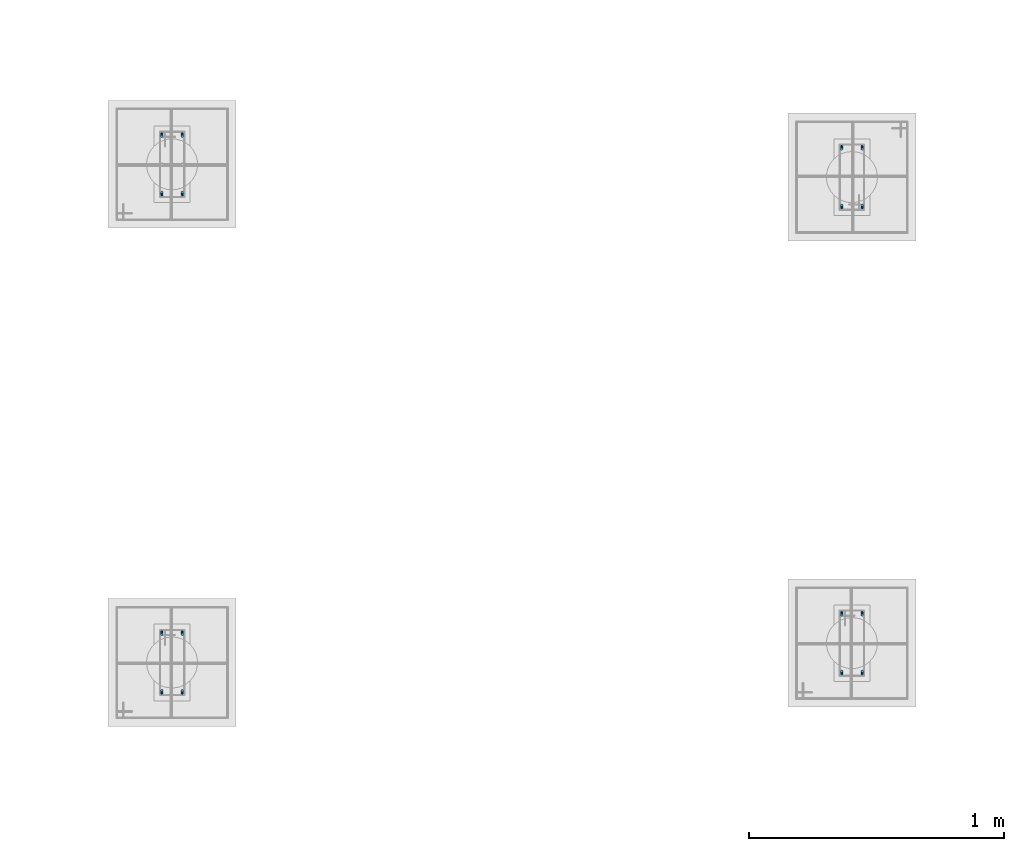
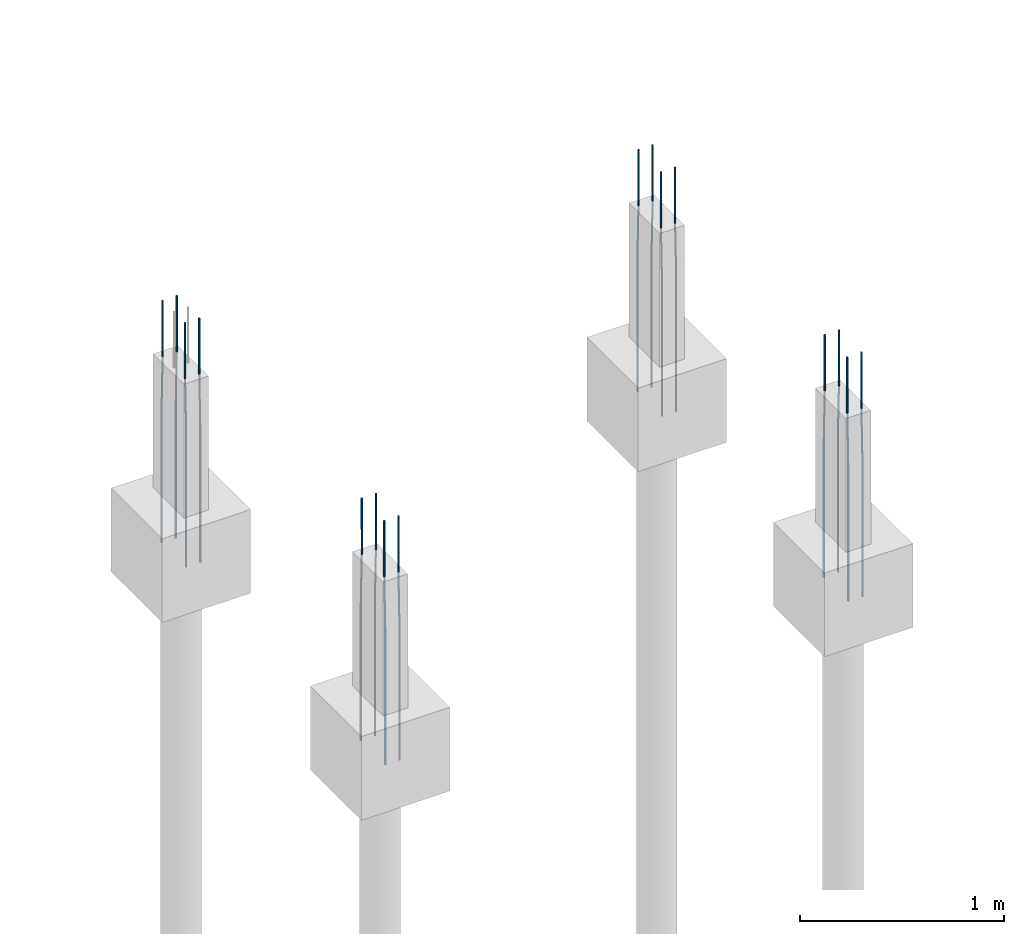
# One storey, part 10 of 119: 16 reinforcing bars.
"""IFC4 building model written with IfcOpenShell, lengths in centimetres."""

from ifc_helpers import new_model, entity, si_unit, derived_unit, frame, origin_with_axes, place, context, project, spatial, element, save


model = new_model("IFC4")

# Units and contexts
model_context = context("Model", 3, precision=1e-05, world=origin_with_axes(), identifier="Body")
ifc_project = project(units=[si_unit("LENGTHUNIT", "METRE", prefix="CENTI"), si_unit("VOLUMEUNIT", "CUBIC_METRE"), si_unit("AREAUNIT", "SQUARE_METRE"), si_unit("POWERUNIT", "WATT"), si_unit("LUMINOUSFLUXUNIT", "LUMEN"), si_unit("ELECTRICCURRENTUNIT", "AMPERE"), si_unit("PRESSUREUNIT", "PASCAL", prefix="KILO"), si_unit("MASSUNIT", "GRAM", prefix="KILO"), si_unit("PLANEANGLEUNIT", "RADIAN"), derived_unit("VOLUMETRICFLOWRATEUNIT", [(si_unit("LENGTHUNIT", "METRE"), 3), (si_unit("TIMEUNIT", "SECOND"), -1)])], contexts=[model_context])

# Site, building, storey
site_placement = place(None, frame((-4000.0, 0.0, 0.0), z_axis=(0.0, 0.0, 1.0), x_axis=(1.0, 0.0, 0.0)))
site = spatial("IfcSite", under=ifc_project, at=site_placement, Name="PADRÃO")
building_placement = place(site_placement, frame((0.0, 0.0, -14.0)))
building = spatial("IfcBuilding", under=site, at=building_placement, Name="CRECHE PRÉ-ESCOLA TIPO 2")
storey_placement = place(building_placement, origin_with_axes())
storey = spatial("IfcBuildingStorey", under=building, at=storey_placement, Name="FUNDAÇÃO", CompositionType="ELEMENT", Elevation=-14.0)

# Reinforcing bars
reinforcing_bar_1_placement = place(storey_placement, frame((1122.72, 1040.0, 33.3573001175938), z_axis=(0.0, 0.0, 1.0), x_axis=(1.0, 0.0, 0.0)))
element("IfcReinforcingBar", 1, at=reinforcing_bar_1_placement, inside=storey, Name="P119 - Longitudinal", BarLength=0.0, CrossSectionArea=7.853981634e-05, NominalDiameter=1.0, PredefinedType="MAIN", context=model_context, shape_type="AdvancedSweptSolid", body=[
    entity("IfcSweptDiskSolid", entity("IfcCompositeCurve", [entity("IfcCompositeCurveSegment", "CONTINUOUS", True, entity("IfcPolyline", [entity("IfcCartesianPoint", [0.0, 0.5, -145.357300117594]), entity("IfcCartesianPoint", [0.0, 0.5, -63.3573001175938])])), entity("IfcCompositeCurveSegment", "CONTINUOUS", True, entity("IfcPolyline", [entity("IfcCartesianPoint", [0.0, 0.5, -63.3573001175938]), entity("IfcCartesianPoint", [0.0, -0.5, -33.3573001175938])])), entity("IfcCompositeCurveSegment", "CONTINUOUS", True, entity("IfcPolyline", [entity("IfcCartesianPoint", [0.0, -0.5, -33.3573001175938]), entity("IfcCartesianPoint", [0.0, -0.5, 0.0])]))], False), 0.5),
])
for number, where, z_axis, x_axis, name in (
    (2, (1114.72, 1017.0, 33.3573001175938), (0.0, 0.0, 1.0), (1.0, 0.0, 0.0), "P119 - Longitudinal"),
    (3, (1122.72, 1017.0, 33.3573001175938), (0.0, 0.0, 1.0), (1.0, 0.0, 0.0), "P119 - Longitudinal"),
):
    element("IfcReinforcingBar", number, at=place(storey_placement, frame(where, z_axis=z_axis, x_axis=x_axis)), inside=storey, Name=name, BarLength=0.0, CrossSectionArea=7.853981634e-05, NominalDiameter=1.0, PredefinedType="MAIN", context=model_context, shape_type="AdvancedSweptSolid", body=[
        entity("IfcSweptDiskSolid", entity("IfcCompositeCurve", [entity("IfcCompositeCurveSegment", "CONTINUOUS", True, entity("IfcPolyline", [entity("IfcCartesianPoint", [0.0, -0.5, -145.357300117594]), entity("IfcCartesianPoint", [0.0, -0.5, -63.3573001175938])])), entity("IfcCompositeCurveSegment", "CONTINUOUS", True, entity("IfcPolyline", [entity("IfcCartesianPoint", [0.0, -0.5, -63.3573001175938]), entity("IfcCartesianPoint", [0.0, 0.5, -33.3573001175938])])), entity("IfcCompositeCurveSegment", "CONTINUOUS", True, entity("IfcPolyline", [entity("IfcCartesianPoint", [0.0, 0.5, -33.3573001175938]), entity("IfcCartesianPoint", [0.0, 0.5, 0.0])]))], False), 0.5),
    ])
for number, where, z_axis, x_axis, name in (
    (4, (1114.72, 1040.0, 33.3573001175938), (0.0, 0.0, 1.0), (1.0, 0.0, 0.0), "P119 - Longitudinal"),
    (5, (1380.84, 1035.01, 33.3573001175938), (0.0, 0.0, 1.0), (1.0, 0.0, 0.0), "P120 - Longitudinal"),
    (6, (1388.84, 1035.01, 33.3573001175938), (0.0, 0.0, 1.0), (1.0, 0.0, 0.0), "P120 - Longitudinal"),
):
    element("IfcReinforcingBar", number, at=place(storey_placement, frame(where, z_axis=z_axis, x_axis=x_axis)), inside=storey, Name=name, BarLength=0.0, CrossSectionArea=7.853981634e-05, NominalDiameter=1.0, PredefinedType="MAIN", context=model_context, shape_type="AdvancedSweptSolid", body=[
        entity("IfcSweptDiskSolid", entity("IfcCompositeCurve", [entity("IfcCompositeCurveSegment", "CONTINUOUS", True, entity("IfcPolyline", [entity("IfcCartesianPoint", [0.0, 0.5, -145.357300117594]), entity("IfcCartesianPoint", [0.0, 0.5, -63.3573001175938])])), entity("IfcCompositeCurveSegment", "CONTINUOUS", True, entity("IfcPolyline", [entity("IfcCartesianPoint", [0.0, 0.5, -63.3573001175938]), entity("IfcCartesianPoint", [0.0, -0.5, -33.3573001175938])])), entity("IfcCompositeCurveSegment", "CONTINUOUS", True, entity("IfcPolyline", [entity("IfcCartesianPoint", [0.0, -0.5, -33.3573001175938]), entity("IfcCartesianPoint", [0.0, -0.5, 0.0])]))], False), 0.5),
    ])
for number, where, z_axis, x_axis, name in (
    (7, (1388.84, 1012.01, 33.3573001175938), (0.0, 0.0, 1.0), (1.0, 0.0, 0.0), "P120 - Longitudinal"),
    (8, (1380.84, 1012.01, 33.3573001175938), (0.0, 0.0, 1.0), (1.0, 0.0, 0.0), "P120 - Longitudinal"),
):
    element("IfcReinforcingBar", number, at=place(storey_placement, frame(where, z_axis=z_axis, x_axis=x_axis)), inside=storey, Name=name, BarLength=0.0, CrossSectionArea=7.853981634e-05, NominalDiameter=1.0, PredefinedType="MAIN", context=model_context, shape_type="AdvancedSweptSolid", body=[
        entity("IfcSweptDiskSolid", entity("IfcCompositeCurve", [entity("IfcCompositeCurveSegment", "CONTINUOUS", True, entity("IfcPolyline", [entity("IfcCartesianPoint", [0.0, -0.5, -145.357300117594]), entity("IfcCartesianPoint", [0.0, -0.5, -63.3573001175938])])), entity("IfcCompositeCurveSegment", "CONTINUOUS", True, entity("IfcPolyline", [entity("IfcCartesianPoint", [0.0, -0.5, -63.3573001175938]), entity("IfcCartesianPoint", [0.0, 0.5, -33.3573001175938])])), entity("IfcCompositeCurveSegment", "CONTINUOUS", True, entity("IfcPolyline", [entity("IfcCartesianPoint", [0.0, 0.5, -33.3573001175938]), entity("IfcCartesianPoint", [0.0, 0.5, 0.0])]))], False), 0.5),
    ])
reinforcing_bar_2_placement = place(storey_placement, frame((1122.72, 845.0, 33.3573001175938), z_axis=(0.0, 0.0, 1.0), x_axis=(1.0, 0.0, 0.0)))
element("IfcReinforcingBar", 9, at=reinforcing_bar_2_placement, inside=storey, Name="P126 - Longitudinal", BarLength=0.0, CrossSectionArea=7.853981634e-05, NominalDiameter=1.0, PredefinedType="MAIN", context=model_context, shape_type="AdvancedSweptSolid", body=[
    entity("IfcSweptDiskSolid", entity("IfcCompositeCurve", [entity("IfcCompositeCurveSegment", "CONTINUOUS", True, entity("IfcPolyline", [entity("IfcCartesianPoint", [0.0, 0.5, -145.357300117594]), entity("IfcCartesianPoint", [0.0, 0.5, -63.3573001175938])])), entity("IfcCompositeCurveSegment", "CONTINUOUS", True, entity("IfcPolyline", [entity("IfcCartesianPoint", [0.0, 0.5, -63.3573001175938]), entity("IfcCartesianPoint", [0.0, -0.5, -33.3573001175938])])), entity("IfcCompositeCurveSegment", "CONTINUOUS", True, entity("IfcPolyline", [entity("IfcCartesianPoint", [0.0, -0.5, -33.3573001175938]), entity("IfcCartesianPoint", [0.0, -0.5, 0.0])]))], False), 0.5),
])
for number, where, z_axis, x_axis, name in (
    (10, (1122.72, 822.0, 33.3573001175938), (0.0, 0.0, 1.0), (1.0, 0.0, 0.0), "P126 - Longitudinal"),
    (11, (1114.72, 822.0, 33.3573001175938), (0.0, 0.0, 1.0), (1.0, 0.0, 0.0), "P126 - Longitudinal"),
):
    element("IfcReinforcingBar", number, at=place(storey_placement, frame(where, z_axis=z_axis, x_axis=x_axis)), inside=storey, Name=name, BarLength=0.0, CrossSectionArea=7.853981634e-05, NominalDiameter=1.0, PredefinedType="MAIN", context=model_context, shape_type="AdvancedSweptSolid", body=[
        entity("IfcSweptDiskSolid", entity("IfcCompositeCurve", [entity("IfcCompositeCurveSegment", "CONTINUOUS", True, entity("IfcPolyline", [entity("IfcCartesianPoint", [0.0, -0.5, -145.357300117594]), entity("IfcCartesianPoint", [0.0, -0.5, -63.3573001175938])])), entity("IfcCompositeCurveSegment", "CONTINUOUS", True, entity("IfcPolyline", [entity("IfcCartesianPoint", [0.0, -0.5, -63.3573001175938]), entity("IfcCartesianPoint", [0.0, 0.5, -33.3573001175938])])), entity("IfcCompositeCurveSegment", "CONTINUOUS", True, entity("IfcPolyline", [entity("IfcCartesianPoint", [0.0, 0.5, -33.3573001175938]), entity("IfcCartesianPoint", [0.0, 0.5, 0.0])]))], False), 0.5),
    ])
reinforcing_bar_3_placement = place(storey_placement, frame((1114.72, 845.0, 33.3573001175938), z_axis=(0.0, 0.0, 1.0), x_axis=(1.0, 0.0, 0.0)))
element("IfcReinforcingBar", 12, at=reinforcing_bar_3_placement, inside=storey, Name="P126 - Longitudinal", BarLength=0.0, CrossSectionArea=7.853981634e-05, NominalDiameter=1.0, PredefinedType="MAIN", context=model_context, shape_type="AdvancedSweptSolid", body=[
    entity("IfcSweptDiskSolid", entity("IfcCompositeCurve", [entity("IfcCompositeCurveSegment", "CONTINUOUS", True, entity("IfcPolyline", [entity("IfcCartesianPoint", [0.0, 0.5, -145.357300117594]), entity("IfcCartesianPoint", [0.0, 0.5, -63.3573001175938])])), entity("IfcCompositeCurveSegment", "CONTINUOUS", True, entity("IfcPolyline", [entity("IfcCartesianPoint", [0.0, 0.5, -63.3573001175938]), entity("IfcCartesianPoint", [0.0, -0.5, -33.3573001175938])])), entity("IfcCompositeCurveSegment", "CONTINUOUS", True, entity("IfcPolyline", [entity("IfcCartesianPoint", [0.0, -0.5, -33.3573001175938]), entity("IfcCartesianPoint", [0.0, -0.5, 0.0])]))], False), 0.5),
])
reinforcing_bar_4_placement = place(storey_placement, frame((1380.84, 829.6, 33.3573001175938), z_axis=(0.0, 0.0, 1.0), x_axis=(1.0, 0.0, 0.0)))
element("IfcReinforcingBar", 13, at=reinforcing_bar_4_placement, inside=storey, Name="P127 - Longitudinal", BarLength=0.0, CrossSectionArea=7.853981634e-05, NominalDiameter=1.0, PredefinedType="MAIN", context=model_context, shape_type="AdvancedSweptSolid", body=[
    entity("IfcSweptDiskSolid", entity("IfcCompositeCurve", [entity("IfcCompositeCurveSegment", "CONTINUOUS", True, entity("IfcPolyline", [entity("IfcCartesianPoint", [0.0, -0.5, -145.357300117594]), entity("IfcCartesianPoint", [0.0, -0.5, -63.3573001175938])])), entity("IfcCompositeCurveSegment", "CONTINUOUS", True, entity("IfcPolyline", [entity("IfcCartesianPoint", [0.0, -0.5, -63.3573001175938]), entity("IfcCartesianPoint", [0.0, 0.5, -33.3573001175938])])), entity("IfcCompositeCurveSegment", "CONTINUOUS", True, entity("IfcPolyline", [entity("IfcCartesianPoint", [0.0, 0.5, -33.3573001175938]), entity("IfcCartesianPoint", [0.0, 0.5, 0.0])]))], False), 0.5),
])
for number, where, z_axis, x_axis, name in (
    (14, (1380.84, 852.6, 33.3573001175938), (0.0, 0.0, 1.0), (1.0, 0.0, 0.0), "P127 - Longitudinal"),
    (15, (1388.84, 852.6, 33.3573001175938), (0.0, 0.0, 1.0), (1.0, 0.0, 0.0), "P127 - Longitudinal"),
):
    element("IfcReinforcingBar", number, at=place(storey_placement, frame(where, z_axis=z_axis, x_axis=x_axis)), inside=storey, Name=name, BarLength=0.0, CrossSectionArea=7.853981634e-05, NominalDiameter=1.0, PredefinedType="MAIN", context=model_context, shape_type="AdvancedSweptSolid", body=[
        entity("IfcSweptDiskSolid", entity("IfcCompositeCurve", [entity("IfcCompositeCurveSegment", "CONTINUOUS", True, entity("IfcPolyline", [entity("IfcCartesianPoint", [0.0, 0.5, -145.357300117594]), entity("IfcCartesianPoint", [0.0, 0.5, -63.3573001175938])])), entity("IfcCompositeCurveSegment", "CONTINUOUS", True, entity("IfcPolyline", [entity("IfcCartesianPoint", [0.0, 0.5, -63.3573001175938]), entity("IfcCartesianPoint", [0.0, -0.5, -33.3573001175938])])), entity("IfcCompositeCurveSegment", "CONTINUOUS", True, entity("IfcPolyline", [entity("IfcCartesianPoint", [0.0, -0.5, -33.3573001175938]), entity("IfcCartesianPoint", [0.0, -0.5, 0.0])]))], False), 0.5),
    ])
reinforcing_bar_5_placement = place(storey_placement, frame((1388.84, 829.6, 33.3573001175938), z_axis=(0.0, 0.0, 1.0), x_axis=(1.0, 0.0, 0.0)))
element("IfcReinforcingBar", 16, at=reinforcing_bar_5_placement, inside=storey, Name="P127 - Longitudinal", BarLength=0.0, CrossSectionArea=7.853981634e-05, NominalDiameter=1.0, PredefinedType="MAIN", context=model_context, shape_type="AdvancedSweptSolid", body=[
    entity("IfcSweptDiskSolid", entity("IfcCompositeCurve", [entity("IfcCompositeCurveSegment", "CONTINUOUS", True, entity("IfcPolyline", [entity("IfcCartesianPoint", [0.0, -0.5, -145.357300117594]), entity("IfcCartesianPoint", [0.0, -0.5, -63.3573001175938])])), entity("IfcCompositeCurveSegment", "CONTINUOUS", True, entity("IfcPolyline", [entity("IfcCartesianPoint", [0.0, -0.5, -63.3573001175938]), entity("IfcCartesianPoint", [0.0, 0.5, -33.3573001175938])])), entity("IfcCompositeCurveSegment", "CONTINUOUS", True, entity("IfcPolyline", [entity("IfcCartesianPoint", [0.0, 0.5, -33.3573001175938]), entity("IfcCartesianPoint", [0.0, 0.5, 0.0])]))], False), 0.5),
])

save(model, "model.ifc")
